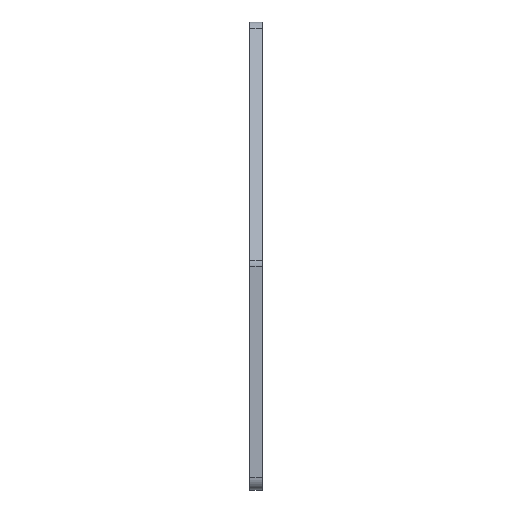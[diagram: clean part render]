
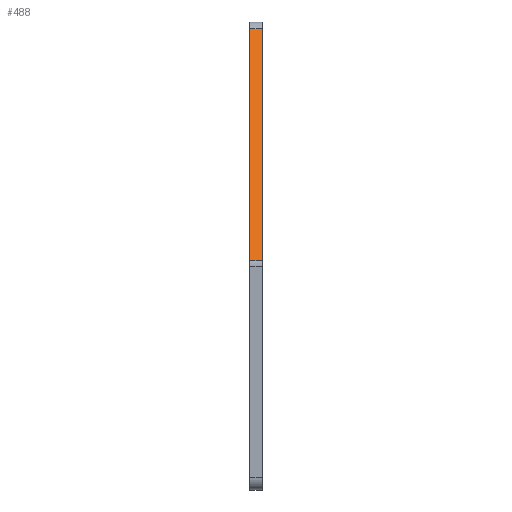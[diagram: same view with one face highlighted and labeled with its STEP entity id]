
A CAD part, left-side view. The second image highlights one B-rep face of the part: STEP entity #488.
In plain terms, the highlighted planar face has unit normal (-0.895, 0, 0.446).
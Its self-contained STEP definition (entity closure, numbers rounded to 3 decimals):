
#43 = LINE ( 'NONE', #481, #707 ) ;
#60 = LINE ( 'NONE', #818, #730 ) ;
#72 = PLANE ( 'NONE',  #1331 ) ;
#172 = EDGE_LOOP ( 'NONE', ( #502, #366, #776, #489 ) ) ;
#185 = VERTEX_POINT ( 'NONE', #207 ) ;
#202 = CARTESIAN_POINT ( 'NONE',  ( -28.965, 2.5, 86.339 ) ) ;
#207 = CARTESIAN_POINT ( 'NONE',  ( -28.965, -0.5, 86.339 ) ) ;
#366 = ORIENTED_EDGE ( 'NONE', *, *, #463, .F. ) ;
#376 = FACE_OUTER_BOUND ( 'NONE', #172, .T. ) ;
#379 = CARTESIAN_POINT ( 'NONE',  ( -28.965, -0.5, 86.339 ) ) ;
#391 = VECTOR ( 'NONE', #1030, 1000. ) ;
#417 = EDGE_CURVE ( 'NONE', #185, #1237, #43, .T. ) ;
#463 = EDGE_CURVE ( 'NONE', #1127, #1301, #60, .T. ) ;
#481 = CARTESIAN_POINT ( 'NONE',  ( -28.965, -0.5, 86.339 ) ) ;
#488 = ADVANCED_FACE ( 'NONE', ( #376 ), #72, .T. ) ;
#489 = ORIENTED_EDGE ( 'NONE', *, *, #417, .T. ) ;
#502 = ORIENTED_EDGE ( 'NONE', *, *, #1367, .F. ) ;
#509 = DIRECTION ( 'NONE',  ( 0., 1., 0. ) ) ;
#549 = DIRECTION ( 'NONE',  ( 0.446, 0., 0.895 ) ) ;
#580 = DIRECTION ( 'NONE',  ( 0., 1., 0. ) ) ;
#610 = CARTESIAN_POINT ( 'NONE',  ( -28.965, -0.5, 86.339 ) ) ;
#645 = CARTESIAN_POINT ( 'NONE',  ( -28.965, 2.5, 86.339 ) ) ;
#707 = VECTOR ( 'NONE', #580, 1000. ) ;
#730 = VECTOR ( 'NONE', #509, 1000. ) ;
#734 = VECTOR ( 'NONE', #549, 1000. ) ;
#755 = LINE ( 'NONE', #379, #391 ) ;
#776 = ORIENTED_EDGE ( 'NONE', *, *, #1009, .T. ) ;
#818 = CARTESIAN_POINT ( 'NONE',  ( -57.685, -0.5, 28.768 ) ) ;
#828 = DIRECTION ( 'NONE',  ( 0.446, 0., 0.895 ) ) ;
#1009 = EDGE_CURVE ( 'NONE', #1127, #185, #755, .T. ) ;
#1030 = DIRECTION ( 'NONE',  ( 0.446, 0., 0.895 ) ) ;
#1127 = VERTEX_POINT ( 'NONE', #1377 ) ;
#1183 = CARTESIAN_POINT ( 'NONE',  ( -57.685, 2.5, 28.768 ) ) ;
#1237 = VERTEX_POINT ( 'NONE', #202 ) ;
#1260 = DIRECTION ( 'NONE',  ( -0.895, 0., 0.446 ) ) ;
#1294 = LINE ( 'NONE', #645, #734 ) ;
#1301 = VERTEX_POINT ( 'NONE', #1183 ) ;
#1331 = AXIS2_PLACEMENT_3D ( 'NONE', #610, #1260, #828 ) ;
#1367 = EDGE_CURVE ( 'NONE', #1301, #1237, #1294, .T. ) ;
#1377 = CARTESIAN_POINT ( 'NONE',  ( -57.685, -0.5, 28.768 ) ) ;
